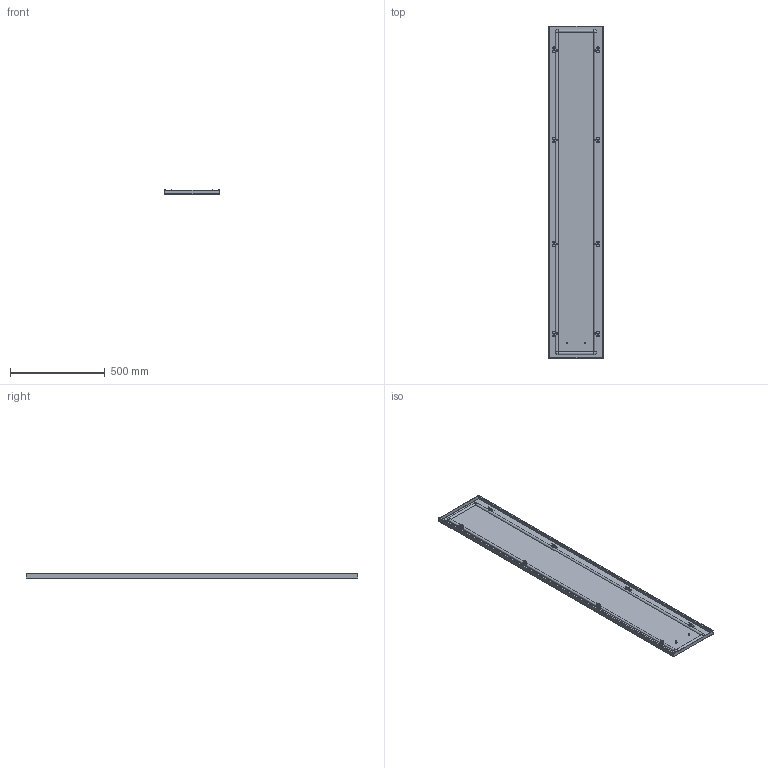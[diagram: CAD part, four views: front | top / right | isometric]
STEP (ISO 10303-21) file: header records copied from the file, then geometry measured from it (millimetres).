
FILE_DESCRIPTION(('Open CASCADE Model'),'2;1');
FILE_NAME('Open CASCADE Shape Model','2025-02-07T16:30:48',('Author'),( 'Open CASCADE'),'Open CASCADE STEP processor 7.8','Open CASCADE 7.8' ,'Unknown');
FILE_SCHEMA(('AUTOMOTIVE_DESIGN { 1 0 10303 214 1 1 1 1 }'));
Length unit declared in the file: millimetre
Products named in the file (10): Compound1; Compound2; Compound3; Solid1; Solid2; Solid3; Solid4; Solid5; Solid6; Solid7
Assembly tree (40 placements, depth 4):
  Compound1
    Compound2
      Compound3
        Solid1
        Solid2  x4
      Solid3
    Solid4  x8
    Solid5  x8
    Solid6  x8
    Solid7  x8
Bounding box: 294 x 1755 x 23.8 mm (x, y, z)
Volume: 1299440.9 mm3; surface area: 1441400.1 mm2
Topology: 38 solids, 38 shells, 1655 faces, 4040 edges, 2460 vertices
Faces by surface type: plane 1043, cone 308, cylinder 268, torus 28, bspline 8
Full cylindrical faces by diameter (mm): 5 x16, 6 x132, 7.5 x4, 8 x16, 10 x8, 11.57 x8
Entity records: 7757 total; most frequent: CARTESIAN_POINT 1447, DIRECTION 1265, ORIENTED_EDGE 1244, EDGE_CURVE 622, AXIS2_PLACEMENT_3D 428, LINE 409, VECTOR 409, VERTEX_POINT 387
